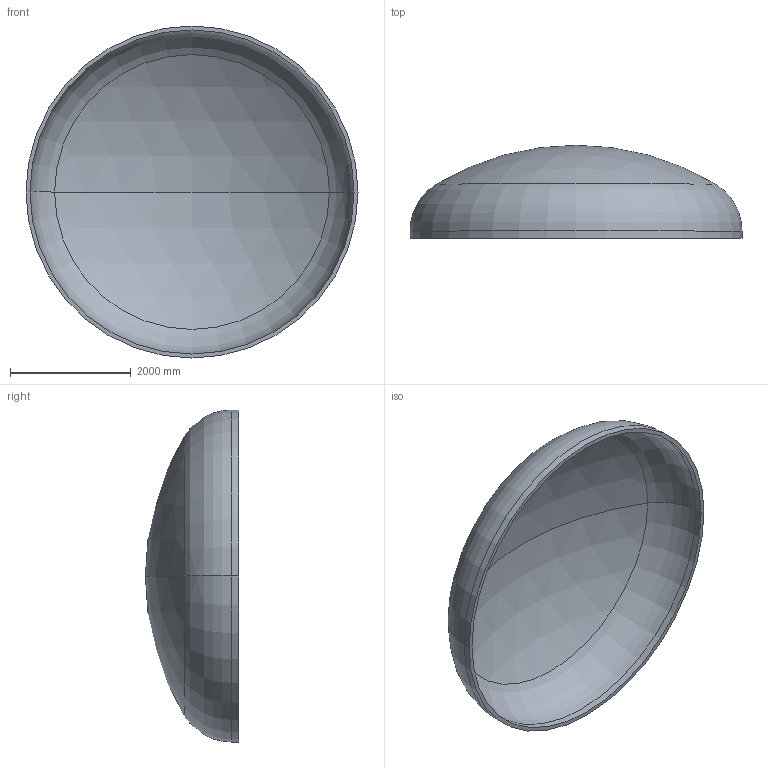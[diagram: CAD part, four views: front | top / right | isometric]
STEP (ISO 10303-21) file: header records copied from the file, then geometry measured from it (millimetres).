
FILE_DESCRIPTION (( 'STEP AP203' ), '1' );
FILE_NAME ('DIN 28013 Korbbogenform_-_Boden DIN 28013 - 5500 x 120 - I - s=66.step', '2016-07-04T10:34:38', ( '' ), ( '' ), 'SwSTEP 2.0', 'SolidWorks 2013', '' );
FILE_SCHEMA (( 'CONFIG_CONTROL_DESIGN' ));
Length unit declared in the file: millimetre
Products named in the file (1): DIN 28013 Korbbogenform_-_Boden DIN 28013 - 5500 x 120 - I - s=66
Bounding box: 5500 x 1543.62 x 5500 mm (x, y, z)
Volume: 2271751763.8 mm3; surface area: 69976773.2 mm2
Topology: 1 solids, 1 shells, 13 faces, 24 edges, 14 vertices
Faces by surface type: torus 4, cylinder 4, sphere 4, plane 1
Entity records: 407 total; most frequent: DIRECTION 72, CARTESIAN_POINT 52, ORIENTED_EDGE 48, AXIS2_PLACEMENT_3D 34, EDGE_CURVE 24, CIRCLE 20, VERTEX_POINT 14, EDGE_LOOP 14
